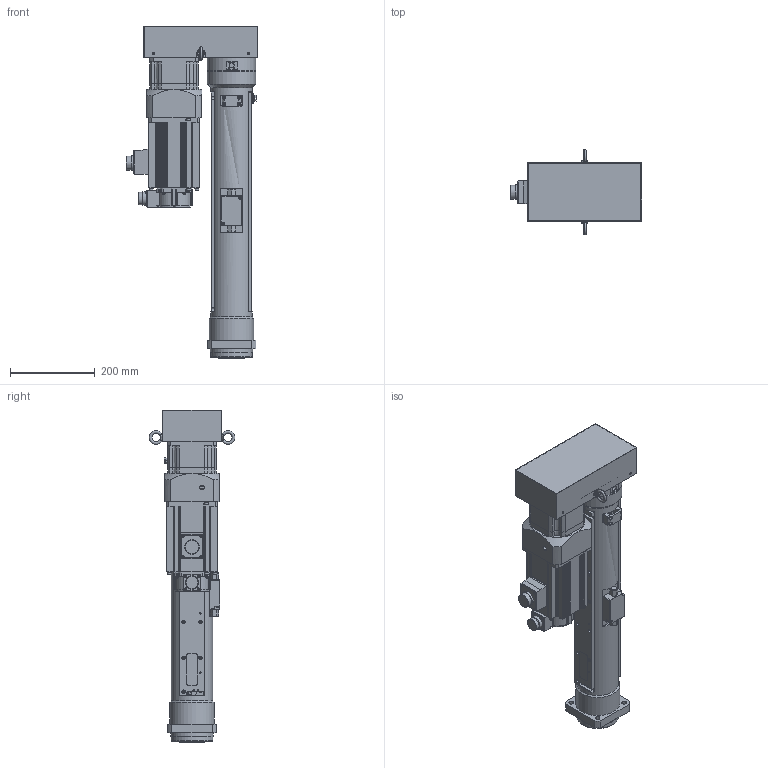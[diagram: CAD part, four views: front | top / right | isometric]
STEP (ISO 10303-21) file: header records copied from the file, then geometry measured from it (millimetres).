
FILE_DESCRIPTION( ('This file contains a STEP AP42 implementation' ,'as created by ZW3D STEP Interface translator.') ,'2;1' );
FILE_NAME( 'OACIS-DC-P025-P030-450-200-A6V200_ASM_20.01.stp' ,'25 310.171214', (''), ('ZWCAD Software Co.'), 'Version 1.0', 'ZW3D to STEP translator', '' );
FILE_SCHEMA(('AUTOMOTIVE_DESIGN { 1 0 10303 214 1 1 1 1 }'));
Length unit declared in the file: millimetre
Products named in the file (2): 0; OACIS-DC-P025-P030-450-200-A6V200_ASM_20.01
Bounding box: 311 x 202.6 x 785 mm (x, y, z)
Volume: 6653113.5 mm3; surface area: 1434565.3 mm2
Topology: 17 solids, 24 shells, 1814 faces, 4501 edges, 2858 vertices
Faces by surface type: cylinder 753, plane 725, cone 159, bspline 118, torus 38, sphere 21
Full cylindrical faces by diameter (mm): 1.6 x8, 2.459 x1, 3.3 x104, 4.2 x4, 4.3 x36, 4.5 x4, 5 x16, 5.5 x2, 5.6 x5, 6.8 x42, 7 x4, 8 x44, 8.4 x8, 8.5 x25, 9 x4, 9.5 x2, 10 x8, 11 x4, 12 x1, 15 x8, 15.5 x2, 16.5 x1, 18 x2, 18.917 x2, 22 x1, 25.4 x2, 26 x1, 27 x1, 29.75 x1, 31.75 x1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
Entity records: 59417 total; most frequent: CARTESIAN_POINT 14304, DIRECTION 9025, ORIENTED_EDGE 8833, EDGE_CURVE 4429, AXIS2_PLACEMENT_3D 3343, VERTEX_POINT 2871, VECTOR 2339, LINE 2339
